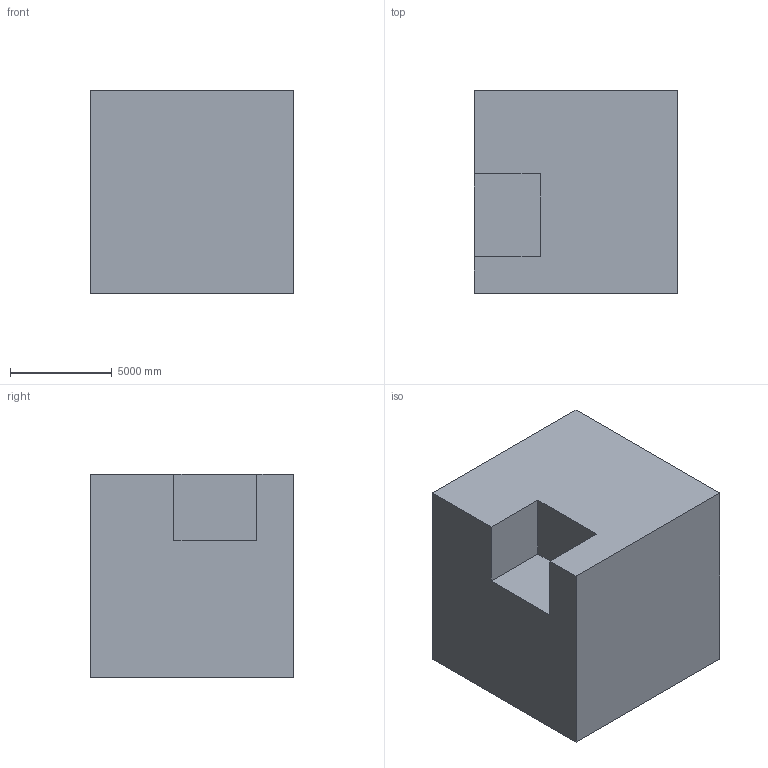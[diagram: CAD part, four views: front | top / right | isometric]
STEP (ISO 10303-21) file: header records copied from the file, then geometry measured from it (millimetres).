
FILE_DESCRIPTION (( 'STEP AP203' ), '1' );
FILE_NAME ('1131.STEP', '2022-08-18T12:52:58', ( 'user' ), ( '' ), 'SwSTEP 2.0', 'SolidWorks 2021', '' );
FILE_SCHEMA (( 'CONFIG_CONTROL_DESIGN' ));
Length unit declared in the file: centimetre
Products named in the file (1): 1131
Bounding box: 10000 x 10000 x 10000 mm (x, y, z)
Volume: 929495024350.9 mm3; surface area: 621071242.7 mm2
Topology: 1 solids, 1 shells, 13 faces, 33 edges, 22 vertices
Faces by surface type: plane 13
Entity records: 464 total; most frequent: CARTESIAN_POINT 69, ORIENTED_EDGE 66, DIRECTION 61, LINE 33, EDGE_CURVE 33, VECTOR 33, VERTEX_POINT 22, AXIS2_PLACEMENT_3D 14
